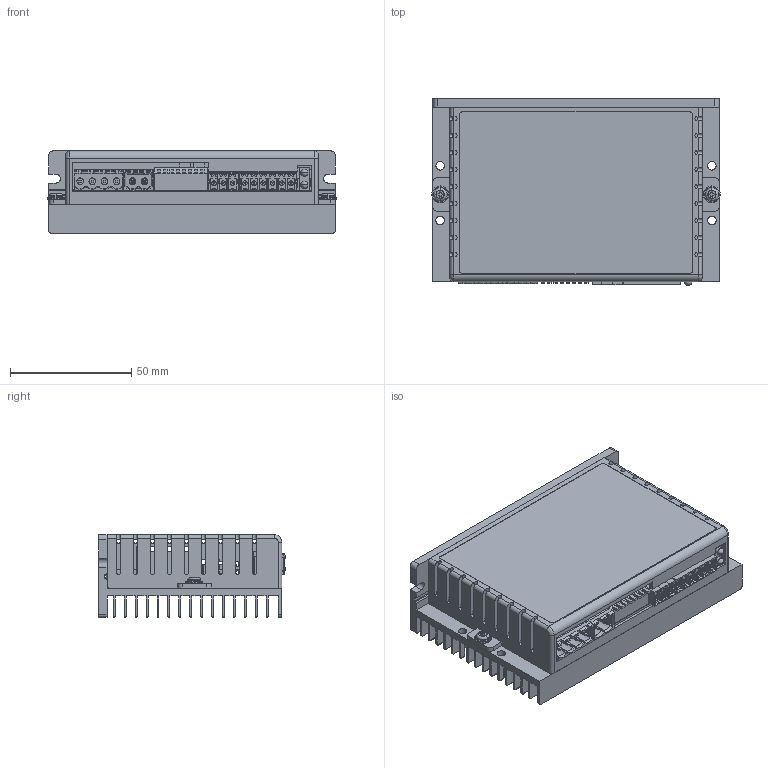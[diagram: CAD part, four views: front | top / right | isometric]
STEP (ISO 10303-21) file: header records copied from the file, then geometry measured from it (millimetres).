
FILE_DESCRIPTION((''),'2;1');
FILE_NAME('DM1-556_ASM','2024-03-27T',('Administrator'),(''),'PRO/ENGINEER BY PARAMETRIC TECHNOLOGY CORPORATION, 2010280','PRO/ENGINEER BY PARAMETRIC TECHNOLOGY CORPORATION, 2010280','');
FILE_SCHEMA(('CONFIG_CONTROL_DESIGN','SHAPE_APPEARANCE_LAYERS_GROUPS'));
Products named in the file (26): PRT0001; PRT0002; PRT0003; ASM0310_ASM_1_ASM_ASM_ASM_ASM; PRT0092; ASM0358_ASM_1_ASM_ASM_ASM_ASM; PRT0093; ASM0359_ASM_1_ASM_ASM_ASM_ASM; PRT0111; ASM0396_ASM_1_ASM_ASM_ASM_ASM; PRT0212; ASM0486_ASM_1_ASM_ASM_ASM_ASM; PRT0213; ASM0487_ASM_1_ASM_ASM_ASM_ASM; PRT0314; ASM0657_ASM_1_ASM_ASM_ASM_ASM; PRT0315; ASM0658_ASM_1_ASM_ASM_ASM_ASM; ASM0309_ASM_1_ASM_ASM_ASM_ASM; PRT0321; ASM0002_ASM_ASM; ASM0001_DM1_DM1C_ASM_6_ASM_ASM__ASM; DB_556_1_1; ASM0001_ASM_ASM; DM1-556_ASM_ASM; DM1-556_ASM
Assembly tree (27 placements, depth 8):
  DM1-556_ASM
    DM1-556_ASM_ASM
      ASM0001_ASM_ASM
        ASM0001_DM1_DM1C_ASM_6_ASM_ASM__ASM
          PRT0001
          PRT0002  x2
          ASM0002_ASM_ASM
            ASM0309_ASM_1_ASM_ASM_ASM_ASM
              ASM0310_ASM_1_ASM_ASM_ASM_ASM
                PRT0003
              ASM0358_ASM_1_ASM_ASM_ASM_ASM
                PRT0092
              ASM0359_ASM_1_ASM_ASM_ASM_ASM
                PRT0093
              ASM0396_ASM_1_ASM_ASM_ASM_ASM
                PRT0111
              ASM0486_ASM_1_ASM_ASM_ASM_ASM
                PRT0212
              ASM0487_ASM_1_ASM_ASM_ASM_ASM
                PRT0213  x2
              ASM0657_ASM_1_ASM_ASM_ASM_ASM
                PRT0314
              ASM0658_ASM_1_ASM_ASM_ASM_ASM
                PRT0315
            PRT0321
        DB_556_1_1
Bounding box: 119 x 77.01 x 34 mm (x, y, z)
Volume: 93109.7 mm3; surface area: 108881.8 mm2
Topology: 14 solids, 16 shells, 3529 faces, 10061 edges, 6666 vertices
Faces by surface type: plane 2951, cylinder 457, cone 59, extrusion 32, torus 20, bspline 6, sphere 4
Entity records: 122146 total; most frequent: CARTESIAN_POINT 24280, ORIENTED_EDGE 17386, DIRECTION 15213, EDGE_CURVE 8697, VECTOR 7299, LINE 7267, VERTEX_POINT 5758, AXIS2_PLACEMENT_3D 3957
